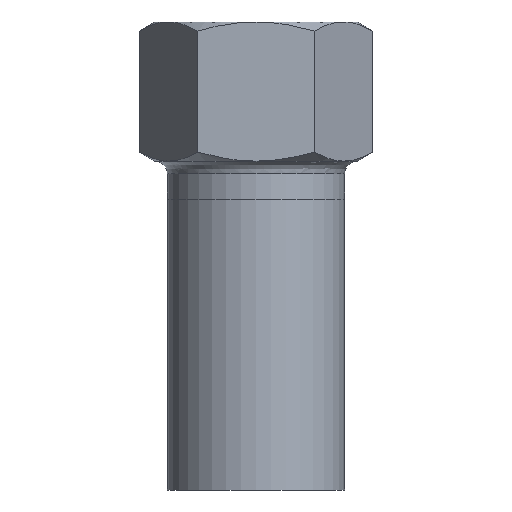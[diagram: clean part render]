
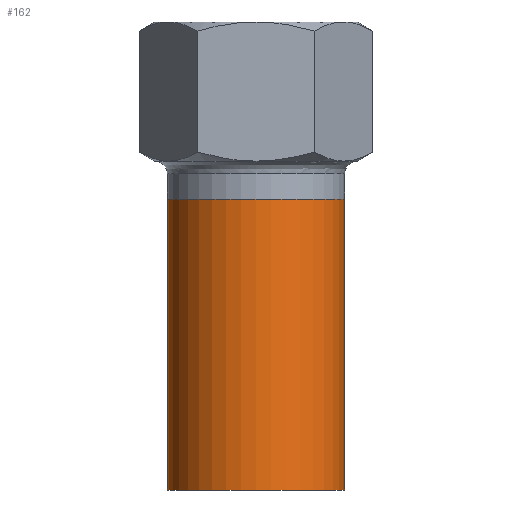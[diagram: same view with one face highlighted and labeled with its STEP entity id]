
A CAD part, front view. The second image highlights one B-rep face of the part: STEP entity #162.
In plain terms, the highlighted cylindrical face has radius 14 mm (diameter 28 mm), a full revolution.
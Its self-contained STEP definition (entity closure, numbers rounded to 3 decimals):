
#135=CARTESIAN_POINT('',(0.0,0.0,0.0));
#136=DIRECTION('',(0.0,0.0,-1.0));
#137=DIRECTION('',(-1.0,0.0,0.0));
#138=AXIS2_PLACEMENT_3D('',#135,#136,#137);
#139=CYLINDRICAL_SURFACE('',#138,14.);
#140=CARTESIAN_POINT('',(14.,0.,-46.));
#141=VERTEX_POINT('',#140);
#142=CARTESIAN_POINT('',(0.0,0.0,-46.));
#143=DIRECTION('',(0.0,0.0,1.0));
#144=DIRECTION('',(-1.0,0.0,0.0));
#145=AXIS2_PLACEMENT_3D('',#142,#143,#144);
#146=CIRCLE('',#145,14.);
#147=EDGE_CURVE('',#141,#141,#146,.T.);
#148=ORIENTED_EDGE('',*,*,#147,.T.);
#149=EDGE_LOOP('',(#148));
#150=FACE_OUTER_BOUND('',#149,.T.);
#151=CARTESIAN_POINT('',(14.,0.,0.0));
#152=VERTEX_POINT('',#151);
#153=CARTESIAN_POINT('',(0.0,0.0,0.0));
#154=DIRECTION('',(0.0,0.0,-1.0));
#155=DIRECTION('',(-1.0,0.0,0.0));
#156=AXIS2_PLACEMENT_3D('',#153,#154,#155);
#157=CIRCLE('',#156,14.);
#158=EDGE_CURVE('',#152,#152,#157,.T.);
#159=ORIENTED_EDGE('',*,*,#158,.T.);
#160=EDGE_LOOP('',(#159));
#161=FACE_BOUND('',#160,.T.);
#162=ADVANCED_FACE('',(#150,#161),#139,.T.);
